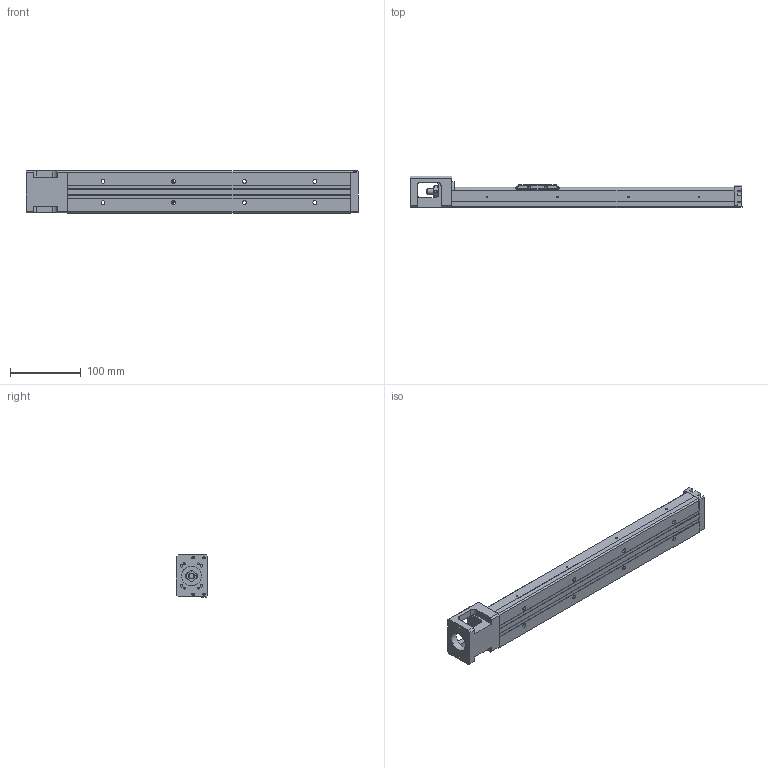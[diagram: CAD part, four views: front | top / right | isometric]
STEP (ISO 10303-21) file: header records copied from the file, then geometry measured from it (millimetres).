
FILE_DESCRIPTION(/* description */ (''),/* implementation_level */ '2;1');
FILE_NAME(/* name */ 'KP33S-400C02-D.stp',/* time_stamp */ '2020-07-01T11:57:54+08:00',/* author */ (''),/* organization */ (''),/* preprocessor_version */ 'ST-DEVELOPER v14',/* originating_system */ 'SIEMENS PLM Software NX 8.0',/* authorisation */ '');
FILE_SCHEMA (('AUTOMOTIVE_DESIGN { 1 0 10303 214 3 1 1 1 }'));
Length unit declared in the file: millimetre
Products named in the file (1): model1
Bounding box: 470 x 44.45 x 60 mm (x, y, z)
Volume: 504252.7 mm3; surface area: 143367.2 mm2
Topology: 5 solids, 14 shells, 621 faces, 1587 edges, 1044 vertices
Faces by surface type: plane 364, cylinder 176, bspline 31, extrusion 21, cone 20, torus 7, sphere 2
Full cylindrical faces by diameter (mm): 1.6 x3, 1.65 x4, 2.15 x4, 2.42 x4, 2.45 x2, 2.5 x12, 3.2 x4, 3.3 x4, 3.4 x4, 3.5 x10, 3.969 x1, 4 x4, 4.001 x1, 4.135 x2, 5.5 x8, 6 x4, 7.6 x1, 8 x5, 9.5 x8, 10.72 x3, 11.8 x2, 12 x6, 12.8 x1, 13 x2, 14 x1, 16 x4, 21.5 x1, 28 x1
Entity records: 33705 total; most frequent: CARTESIAN_POINT 15197, DIRECTION 2842, ORIENTED_EDGE 2768, EDGE_CURVE 1384, AXIS2_PLACEMENT_3D 1003, VERTEX_POINT 976, EDGE_LOOP 868, VECTOR 836
